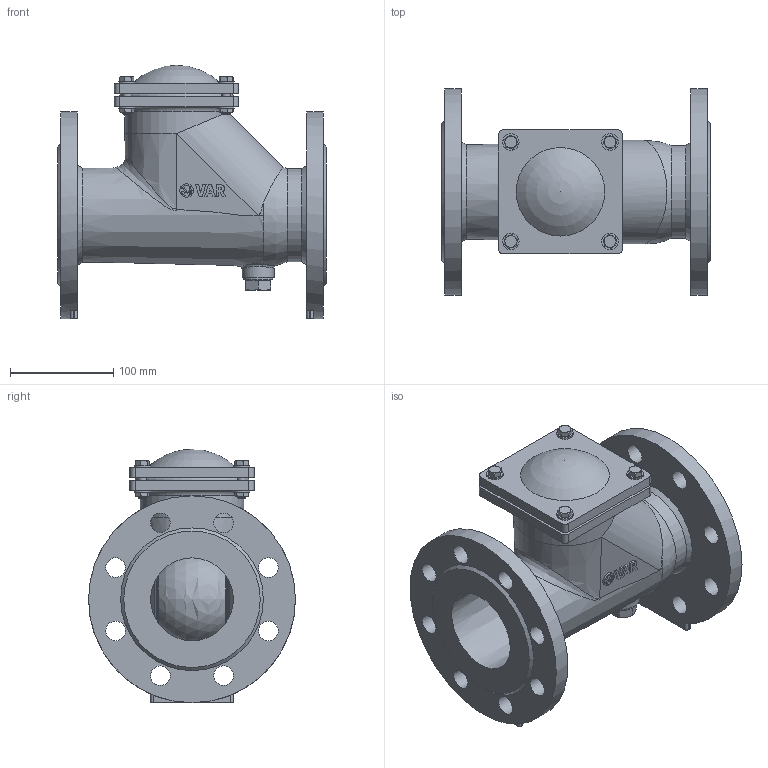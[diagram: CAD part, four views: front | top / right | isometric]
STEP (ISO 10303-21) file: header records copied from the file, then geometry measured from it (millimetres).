
FILE_DESCRIPTION(('STEP AP203'), '1');
FILE_NAME('Øàðîâîé îáðàòíûé êëàïàí VAG KRV', '', ('UNSPECIFIED'), ('UNSPECIFIED'), 'C3D Converter', 'C3D Toolkit', '');
FILE_SCHEMA(('CONFIG_CONTROL_DESIGN'));
Length unit declared in the file: millimetre
Assembly tree (22 placements, depth 2):
  (unnamed)
    (unnamed)
    (unnamed)
    (unnamed)
    (unnamed)
    (unnamed)
    (unnamed)  x4
    (unnamed)
    (unnamed)  x4
    (unnamed)  x4
    (unnamed)  x3
    (unnamed)
Bounding box: 260 x 200 x 245 mm (x, y, z)
Volume: 1895288 mm3; surface area: 436767.5 mm2
Topology: 23 solids, 24 shells, 552 faces, 1420 edges, 950 vertices
Faces by surface type: plane 249, extrusion 154, cylinder 83, cone 39, bspline 10, sphere 9, torus 8
Full cylindrical faces by diameter (mm): 6.647 x4, 8 x4, 8.4 x8, 10 x8, 13.157 x1, 16 x10, 17 x1, 19 x16, 22.49 x1, 28 x1, 31 x1, 80 x1, 90 x3, 100 x1, 200 x2
Entity records: 22234 total; most frequent: CARTESIAN_POINT 8901, ORIENTED_EDGE 2184, DIRECTION 1658, EDGE_CURVE 1092, VERTEX_POINT 760, VECTOR 678, EDGE_LOOP 610, B_SPLINE_CURVE_WITH_KNOTS 556
